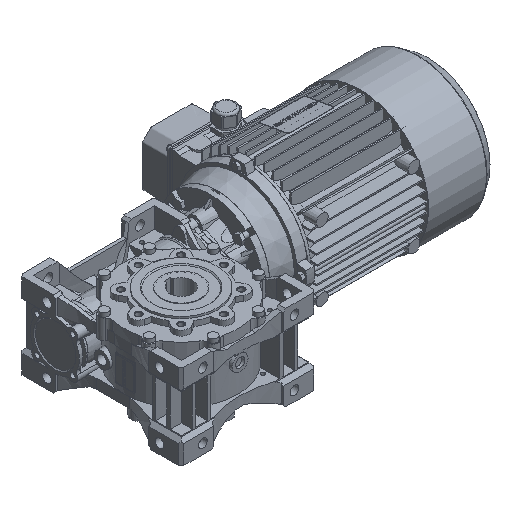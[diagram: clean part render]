
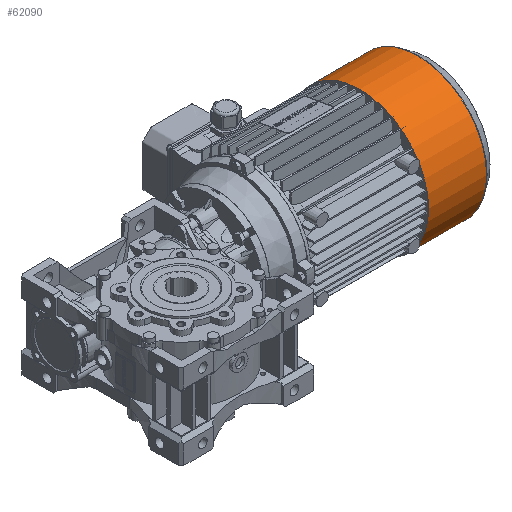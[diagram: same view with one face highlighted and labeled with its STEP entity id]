
A CAD part, isometric view. The second image highlights one B-rep face of the part: STEP entity #62090.
In plain terms, the highlighted cylindrical face has radius 105.2 mm (diameter 210.4 mm), a full revolution.
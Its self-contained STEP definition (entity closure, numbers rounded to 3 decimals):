
#2370=CYLINDRICAL_SURFACE('',#68779,105.2);
#30918=ORIENTED_EDGE('',*,*,#40007,.F.);
#30919=ORIENTED_EDGE('',*,*,#40006,.T.);
#40006=EDGE_CURVE('',#46094,#46094,#49198,.T.);
#40007=EDGE_CURVE('',#46095,#46095,#49199,.T.);
#46094=VERTEX_POINT('',#107641);
#46095=VERTEX_POINT('',#107644);
#49198=CIRCLE('',#68778,105.2);
#49199=CIRCLE('',#68780,105.2);
#53014=EDGE_LOOP('',(#30918));
#53015=EDGE_LOOP('',(#30919));
#56874=FACE_BOUND('',#53014,.T.);
#56875=FACE_BOUND('',#53015,.T.);
#62090=ADVANCED_FACE('',(#56874,#56875),#2370,.T.);
#68778=AXIS2_PLACEMENT_3D('',#107640,#87327,#87328);
#68779=AXIS2_PLACEMENT_3D('',#107642,#87329,#87330);
#68780=AXIS2_PLACEMENT_3D('',#107643,#87331,#87332);
#87327=DIRECTION('',(1.,0.,0.));
#87328=DIRECTION('',(0.,0.,-1.));
#87329=DIRECTION('',(1.,0.,0.));
#87330=DIRECTION('',(0.,0.,-1.));
#87331=DIRECTION('',(1.,0.,0.));
#87332=DIRECTION('',(0.,0.,-1.));
#107640=CARTESIAN_POINT('',(0.,0.,0.));
#107641=CARTESIAN_POINT('',(0.,0.,-105.2));
#107642=CARTESIAN_POINT('',(105.,0.,0.));
#107643=CARTESIAN_POINT('',(88.374,0.,0.));
#107644=CARTESIAN_POINT('',(88.374,0.,-105.2));
